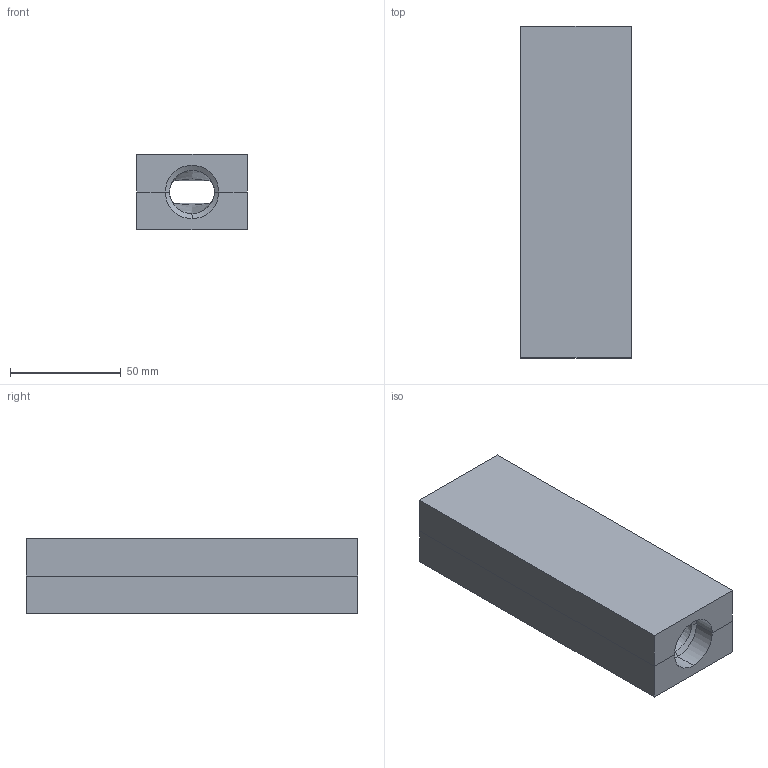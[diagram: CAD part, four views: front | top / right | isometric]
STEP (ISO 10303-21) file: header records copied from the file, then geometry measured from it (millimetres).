
FILE_DESCRIPTION (( 'STEP AP214' ), '1' );
FILE_NAME ('Pruzor_sestava_v.1.STEP', '2019-08-05T07:24:30', ( '' ), ( '' ), 'SwSTEP 2.0', 'SolidWorks 2016', '' );
FILE_SCHEMA (( 'AUTOMOTIVE_DESIGN' ));
Length unit declared in the file: millimetre
Products named in the file (4): alternativ; Pruzor_sestava_v.1; kolik 2x8
Assembly tree (6 placements, depth 2):
  Pruzor_sestava_v.1
    alternativ
    alternativ
    kolik 2x8  x4
Bounding box: 50 x 150 x 34 mm (x, y, z)
Volume: 206968.3 mm3; surface area: 46348.3 mm2
Topology: 6 solids, 6 shells, 100 faces, 246 edges, 150 vertices
Faces by surface type: cylinder 38, plane 36, cone 22, bspline 4
Entity records: 3182 total; most frequent: CARTESIAN_POINT 955, DIRECTION 436, ORIENTED_EDGE 424, EDGE_CURVE 212, AXIS2_PLACEMENT_3D 157, VERTEX_POINT 138, LINE 122, VECTOR 122
